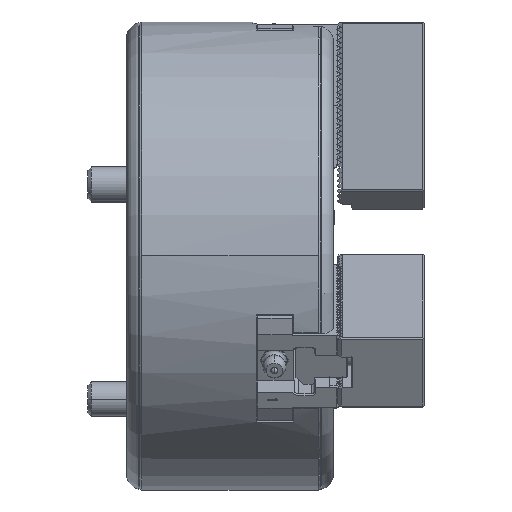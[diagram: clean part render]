
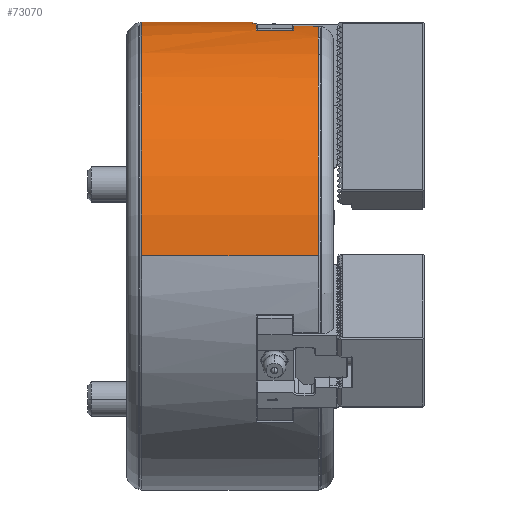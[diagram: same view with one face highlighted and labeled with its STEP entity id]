
A CAD part, top view. The second image highlights one B-rep face of the part: STEP entity #73070.
In plain terms, the highlighted cylindrical face has radius 67.5 mm (diameter 135 mm), a partial arc.
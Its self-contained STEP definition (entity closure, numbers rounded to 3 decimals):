
#640 = DIRECTION ( 'NONE',  ( 0., 1., 0. ) ) ;
#1896 = AXIS2_PLACEMENT_3D ( 'NONE', #36846, #8228, #74093 ) ;
#2004 = VECTOR ( 'NONE', #77369, 1000. ) ;
#3278 = CARTESIAN_POINT ( 'NONE',  ( -55.5, 0., 67.5 ) ) ;
#3812 = CARTESIAN_POINT ( 'NONE',  ( -11.6, 0., 0. ) ) ;
#4235 = VERTEX_POINT ( 'NONE', #73958 ) ;
#4934 = CARTESIAN_POINT ( 'NONE',  ( -23.4, 67.088, 7.444 ) ) ;
#5051 = DIRECTION ( 'NONE',  ( -1., 0., 0. ) ) ;
#5483 = VERTEX_POINT ( 'NONE', #34253 ) ;
#5608 = CARTESIAN_POINT ( 'NONE',  ( 0., 0., -67.5 ) ) ;
#5760 = CARTESIAN_POINT ( 'NONE',  ( -11.6, 65.103, -17.827 ) ) ;
#6127 = ORIENTED_EDGE ( 'NONE', *, *, #67108, .T. ) ;
#6193 = VECTOR ( 'NONE', #87088, 1000. ) ;
#7036 = LINE ( 'NONE', #72424, #2004 ) ;
#7731 = ORIENTED_EDGE ( 'NONE', *, *, #85767, .T. ) ;
#8228 = DIRECTION ( 'NONE',  ( 1., 0., 0. ) ) ;
#8267 = CARTESIAN_POINT ( 'NONE',  ( -23.4, 0., 0. ) ) ;
#8574 = CARTESIAN_POINT ( 'NONE',  ( 0., 0., 0. ) ) ;
#9033 = ORIENTED_EDGE ( 'NONE', *, *, #74440, .F. ) ;
#9207 = DIRECTION ( 'NONE',  ( 0., 0., -1. ) ) ;
#9277 = EDGE_CURVE ( 'NONE', #59402, #36814, #92352, .T. ) ;
#9356 = DIRECTION ( 'NONE',  ( 1., 0., 0. ) ) ;
#10639 = ORIENTED_EDGE ( 'NONE', *, *, #16487, .F. ) ;
#10986 = EDGE_CURVE ( 'NONE', #84872, #70761, #49102, .T. ) ;
#12712 = EDGE_CURVE ( 'NONE', #5483, #72863, #43471, .T. ) ;
#12866 = DIRECTION ( 'NONE',  ( 0., 0., -1. ) ) ;
#13203 = VECTOR ( 'NONE', #86397, 1000. ) ;
#13370 = ORIENTED_EDGE ( 'NONE', *, *, #9277, .T. ) ;
#13573 = CARTESIAN_POINT ( 'NONE',  ( -11.6, 66.316, 12.588 ) ) ;
#15169 = CIRCLE ( 'NONE', #59392, 67.5 ) ;
#15347 = EDGE_LOOP ( 'NONE', ( #87741, #55806, #6127, #49419, #49641, #74788, #13370, #24191, #9033, #23860, #76267, #33620, #16730, #7731, #60959, #91640, #10639 ) ) ;
#15518 = VERTEX_POINT ( 'NONE', #22616 ) ;
#16460 = CARTESIAN_POINT ( 'NONE',  ( -22.4, 65.103, 17.827 ) ) ;
#16487 = EDGE_CURVE ( 'NONE', #15518, #21582, #40466, .T. ) ;
#16603 = VECTOR ( 'NONE', #38031, 1000. ) ;
#16730 = ORIENTED_EDGE ( 'NONE', *, *, #12712, .T. ) ;
#19973 = VECTOR ( 'NONE', #24314, 1000. ) ;
#19998 = DIRECTION ( 'NONE',  ( -1., 0., 0. ) ) ;
#21582 = VERTEX_POINT ( 'NONE', #75245 ) ;
#22616 = CARTESIAN_POINT ( 'NONE',  ( -55.5, 0., -67.5 ) ) ;
#23860 = ORIENTED_EDGE ( 'NONE', *, *, #49232, .F. ) ;
#23884 = CIRCLE ( 'NONE', #77304, 67.5 ) ;
#24191 = ORIENTED_EDGE ( 'NONE', *, *, #58092, .T. ) ;
#24314 = DIRECTION ( 'NONE',  ( 1., 0., 0. ) ) ;
#25123 = VERTEX_POINT ( 'NONE', #27823 ) ;
#26161 = VERTEX_POINT ( 'NONE', #60993 ) ;
#27823 = CARTESIAN_POINT ( 'NONE',  ( -4.5, 66.316, -12.588 ) ) ;
#28859 = LINE ( 'NONE', #58026, #6193 ) ;
#30635 = DIRECTION ( 'NONE',  ( 1., 0., 0. ) ) ;
#31105 = DIRECTION ( 'NONE',  ( -1., 0., 0. ) ) ;
#31745 = VERTEX_POINT ( 'NONE', #59478 ) ;
#31906 = CYLINDRICAL_SURFACE ( 'NONE', #84503, 67.5 ) ;
#33620 = ORIENTED_EDGE ( 'NONE', *, *, #83485, .T. ) ;
#34138 = DIRECTION ( 'NONE',  ( 1., 0., 0. ) ) ;
#34241 = AXIS2_PLACEMENT_3D ( 'NONE', #34504, #72692, #56526 ) ;
#34253 = CARTESIAN_POINT ( 'NONE',  ( -22.4, 65.103, -17.827 ) ) ;
#34504 = CARTESIAN_POINT ( 'NONE',  ( -11.6, 0., 0. ) ) ;
#35203 = EDGE_CURVE ( 'NONE', #63894, #25123, #51897, .T. ) ;
#35254 = VECTOR ( 'NONE', #5051, 1000. ) ;
#35512 = EDGE_CURVE ( 'NONE', #15518, #84872, #40796, .T. ) ;
#36814 = VERTEX_POINT ( 'NONE', #16460 ) ;
#36846 = CARTESIAN_POINT ( 'NONE',  ( -55.5, 0., 0. ) ) ;
#37354 = CARTESIAN_POINT ( 'NONE',  ( -4.5, 0., 0. ) ) ;
#37672 = DIRECTION ( 'NONE',  ( 1., 0., 0. ) ) ;
#37684 = VERTEX_POINT ( 'NONE', #65747 ) ;
#38031 = DIRECTION ( 'NONE',  ( 1., 0., 0. ) ) ;
#38649 = DIRECTION ( 'NONE',  ( 1., 0., 0. ) ) ;
#40466 = LINE ( 'NONE', #5608, #94316 ) ;
#40796 = CIRCLE ( 'NONE', #60629, 67.5 ) ;
#43035 = EDGE_CURVE ( 'NONE', #4235, #49570, #79704, .T. ) ;
#43471 = LINE ( 'NONE', #72589, #19973 ) ;
#44682 = CARTESIAN_POINT ( 'NONE',  ( -4.5, 0., 0. ) ) ;
#44701 = AXIS2_PLACEMENT_3D ( 'NONE', #90287, #31105, #9207 ) ;
#44824 = CIRCLE ( 'NONE', #79898, 67.5 ) ;
#44850 = FACE_OUTER_BOUND ( 'NONE', #15347, .T. ) ;
#45642 = CARTESIAN_POINT ( 'NONE',  ( -22.7, 67.088, 7.444 ) ) ;
#46212 = CIRCLE ( 'NONE', #44701, 67.5 ) ;
#46384 = CARTESIAN_POINT ( 'NONE',  ( -55.5, 67.5, 0. ) ) ;
#49102 = CIRCLE ( 'NONE', #1896, 67.5 ) ;
#49232 = EDGE_CURVE ( 'NONE', #49570, #72425, #23884, .T. ) ;
#49419 = ORIENTED_EDGE ( 'NONE', *, *, #61221, .F. ) ;
#49570 = VERTEX_POINT ( 'NONE', #52547 ) ;
#49641 = ORIENTED_EDGE ( 'NONE', *, *, #63664, .T. ) ;
#51035 = CIRCLE ( 'NONE', #34241, 67.5 ) ;
#51897 = LINE ( 'NONE', #52371, #16603 ) ;
#52371 = CARTESIAN_POINT ( 'NONE',  ( 0., 66.316, -12.588 ) ) ;
#52547 = CARTESIAN_POINT ( 'NONE',  ( -23.4, 67.088, -7.444 ) ) ;
#55166 = LINE ( 'NONE', #45642, #58831 ) ;
#55806 = ORIENTED_EDGE ( 'NONE', *, *, #10986, .T. ) ;
#56201 = EDGE_CURVE ( 'NONE', #21582, #25123, #72821, .T. ) ;
#56337 = CARTESIAN_POINT ( 'NONE',  ( -22.4, 0., 0. ) ) ;
#56526 = DIRECTION ( 'NONE',  ( 0., 0., 1. ) ) ;
#57306 = VERTEX_POINT ( 'NONE', #13573 ) ;
#58026 = CARTESIAN_POINT ( 'NONE',  ( 0., 0., 67.5 ) ) ;
#58092 = EDGE_CURVE ( 'NONE', #36814, #31745, #15169, .T. ) ;
#58831 = VECTOR ( 'NONE', #9356, 1000. ) ;
#59392 = AXIS2_PLACEMENT_3D ( 'NONE', #56337, #19998, #12866 ) ;
#59402 = VERTEX_POINT ( 'NONE', #84453 ) ;
#59478 = CARTESIAN_POINT ( 'NONE',  ( -22.4, 67.088, 7.444 ) ) ;
#60629 = AXIS2_PLACEMENT_3D ( 'NONE', #87100, #34138, #92864 ) ;
#60634 = AXIS2_PLACEMENT_3D ( 'NONE', #37354, #30635, #640 ) ;
#60959 = ORIENTED_EDGE ( 'NONE', *, *, #35203, .T. ) ;
#60993 = CARTESIAN_POINT ( 'NONE',  ( -4.5, 66.316, 12.588 ) ) ;
#61221 = EDGE_CURVE ( 'NONE', #26161, #37684, #79407, .T. ) ;
#63664 = EDGE_CURVE ( 'NONE', #26161, #57306, #7036, .T. ) ;
#63857 = DIRECTION ( 'NONE',  ( 1., 0., 0. ) ) ;
#63894 = VERTEX_POINT ( 'NONE', #84738 ) ;
#65747 = CARTESIAN_POINT ( 'NONE',  ( -4.5, 0., 67.5 ) ) ;
#66505 = DIRECTION ( 'NONE',  ( 1., 0., 0. ) ) ;
#66816 = DIRECTION ( 'NONE',  ( 0., 0., -1. ) ) ;
#67108 = EDGE_CURVE ( 'NONE', #70761, #37684, #28859, .T. ) ;
#67594 = DIRECTION ( 'NONE',  ( 0., 1., 0. ) ) ;
#70761 = VERTEX_POINT ( 'NONE', #3278 ) ;
#72424 = CARTESIAN_POINT ( 'NONE',  ( 0., 66.316, 12.588 ) ) ;
#72425 = VERTEX_POINT ( 'NONE', #4934 ) ;
#72589 = CARTESIAN_POINT ( 'NONE',  ( 0., 65.103, -17.827 ) ) ;
#72692 = DIRECTION ( 'NONE',  ( 1., 0., 0. ) ) ;
#72821 = CIRCLE ( 'NONE', #60634, 67.5 ) ;
#72863 = VERTEX_POINT ( 'NONE', #5760 ) ;
#73070 = ADVANCED_FACE ( 'NONE', ( #44850 ), #31906, .T. ) ;
#73958 = CARTESIAN_POINT ( 'NONE',  ( -22.4, 67.088, -7.444 ) ) ;
#74093 = DIRECTION ( 'NONE',  ( 0., 1., 0. ) ) ;
#74440 = EDGE_CURVE ( 'NONE', #72425, #31745, #55166, .T. ) ;
#74488 = DIRECTION ( 'NONE',  ( 0., 0., 1. ) ) ;
#74788 = ORIENTED_EDGE ( 'NONE', *, *, #93182, .T. ) ;
#74859 = AXIS2_PLACEMENT_3D ( 'NONE', #44682, #81896, #67594 ) ;
#75245 = CARTESIAN_POINT ( 'NONE',  ( -4.5, 0., -67.5 ) ) ;
#76267 = ORIENTED_EDGE ( 'NONE', *, *, #43035, .F. ) ;
#77304 = AXIS2_PLACEMENT_3D ( 'NONE', #8267, #66505, #89359 ) ;
#77369 = DIRECTION ( 'NONE',  ( -1., 0., 0. ) ) ;
#77613 = CARTESIAN_POINT ( 'NONE',  ( 0., 65.103, 17.827 ) ) ;
#79407 = CIRCLE ( 'NONE', #74859, 67.5 ) ;
#79704 = LINE ( 'NONE', #87786, #13203 ) ;
#79898 = AXIS2_PLACEMENT_3D ( 'NONE', #3812, #38649, #74488 ) ;
#81896 = DIRECTION ( 'NONE',  ( 1., 0., 0. ) ) ;
#83485 = EDGE_CURVE ( 'NONE', #4235, #5483, #46212, .T. ) ;
#84453 = CARTESIAN_POINT ( 'NONE',  ( -11.6, 65.103, 17.827 ) ) ;
#84503 = AXIS2_PLACEMENT_3D ( 'NONE', #8574, #37672, #66816 ) ;
#84738 = CARTESIAN_POINT ( 'NONE',  ( -11.6, 66.316, -12.588 ) ) ;
#84872 = VERTEX_POINT ( 'NONE', #46384 ) ;
#85767 = EDGE_CURVE ( 'NONE', #72863, #63894, #51035, .T. ) ;
#86397 = DIRECTION ( 'NONE',  ( -1., 0., 0. ) ) ;
#87088 = DIRECTION ( 'NONE',  ( 1., 0., 0. ) ) ;
#87100 = CARTESIAN_POINT ( 'NONE',  ( -55.5, 0., 0. ) ) ;
#87741 = ORIENTED_EDGE ( 'NONE', *, *, #35512, .T. ) ;
#87786 = CARTESIAN_POINT ( 'NONE',  ( -22.7, 67.088, -7.444 ) ) ;
#89359 = DIRECTION ( 'NONE',  ( 0., 0., 1. ) ) ;
#90287 = CARTESIAN_POINT ( 'NONE',  ( -22.4, 0., 0. ) ) ;
#91640 = ORIENTED_EDGE ( 'NONE', *, *, #56201, .F. ) ;
#92352 = LINE ( 'NONE', #77613, #35254 ) ;
#92864 = DIRECTION ( 'NONE',  ( 0., 1., 0. ) ) ;
#93182 = EDGE_CURVE ( 'NONE', #57306, #59402, #44824, .T. ) ;
#94316 = VECTOR ( 'NONE', #63857, 1000. ) ;
